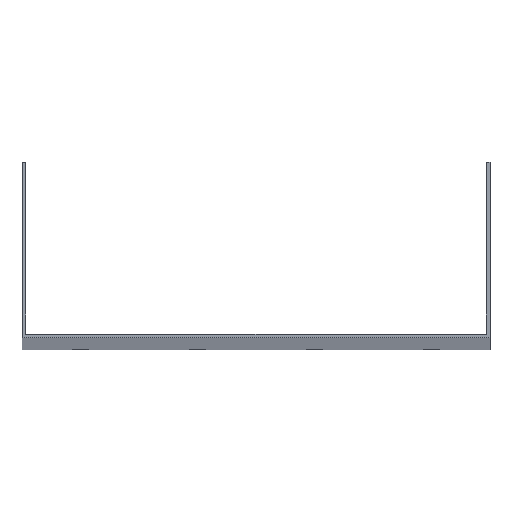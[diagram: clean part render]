
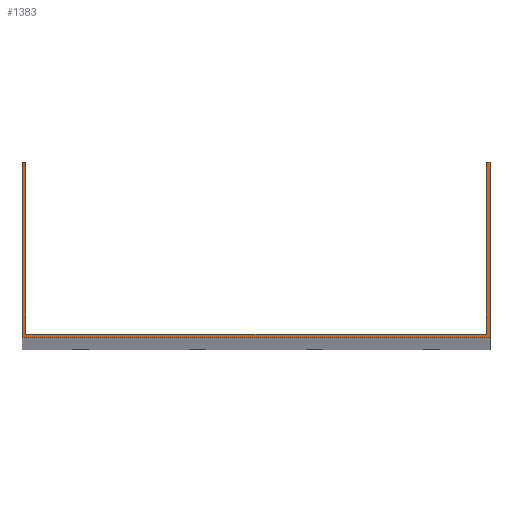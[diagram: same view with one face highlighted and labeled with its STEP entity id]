
A CAD part, top view. The second image highlights one B-rep face of the part: STEP entity #1383.
In plain terms, the highlighted planar face has unit normal (0, 0, 1).
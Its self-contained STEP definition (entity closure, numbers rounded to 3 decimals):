
#103 = CARTESIAN_POINT ( 'NONE',  ( -100., 1.5, 1500. ) ) ;
#109 = EDGE_CURVE ( 'NONE', #4525, #527, #1793, .T. ) ;
#202 = ORIENTED_EDGE ( 'NONE', *, *, #4035, .T. ) ;
#234 = CARTESIAN_POINT ( 'NONE',  ( -100., 0., 1500. ) ) ;
#264 = VECTOR ( 'NONE', #3798, 1000. ) ;
#272 = DIRECTION ( 'NONE',  ( 0., -1., 0. ) ) ;
#357 = DIRECTION ( 'NONE',  ( 1., 0., 0. ) ) ;
#431 = CARTESIAN_POINT ( 'NONE',  ( 100., 75., 1500. ) ) ;
#453 = LINE ( 'NONE', #1904, #2078 ) ;
#527 = VERTEX_POINT ( 'NONE', #4340 ) ;
#549 = CARTESIAN_POINT ( 'NONE',  ( -98.5, 75., 1500. ) ) ;
#579 = LINE ( 'NONE', #4542, #2408 ) ;
#606 = LINE ( 'NONE', #1368, #3752 ) ;
#668 = EDGE_LOOP ( 'NONE', ( #938, #2792, #202, #1612, #3430, #4329, #4169, #3169 ) ) ;
#729 = VERTEX_POINT ( 'NONE', #1942 ) ;
#737 = CARTESIAN_POINT ( 'NONE',  ( -98.5, 1.5, 1500. ) ) ;
#843 = VECTOR ( 'NONE', #3005, 1000. ) ;
#847 = AXIS2_PLACEMENT_3D ( 'NONE', #2509, #1453, #357 ) ;
#938 = ORIENTED_EDGE ( 'NONE', *, *, #1003, .F. ) ;
#943 = DIRECTION ( 'NONE',  ( 0., 1., 0. ) ) ;
#1003 = EDGE_CURVE ( 'NONE', #4525, #1330, #3853, .T. ) ;
#1173 = EDGE_CURVE ( 'NONE', #1330, #3964, #1940, .T. ) ;
#1275 = CARTESIAN_POINT ( 'NONE',  ( -98.5, 75., 1500. ) ) ;
#1299 = CARTESIAN_POINT ( 'NONE',  ( 98.5, 75., 1500. ) ) ;
#1330 = VERTEX_POINT ( 'NONE', #737 ) ;
#1368 = CARTESIAN_POINT ( 'NONE',  ( 100., 75., 1500. ) ) ;
#1383 = ADVANCED_FACE ( 'NONE', ( #2864 ), #2179, .T. ) ;
#1418 = CARTESIAN_POINT ( 'NONE',  ( -100., 75., 1500. ) ) ;
#1453 = DIRECTION ( 'NONE',  ( 0., 0., 1. ) ) ;
#1612 = ORIENTED_EDGE ( 'NONE', *, *, #2388, .T. ) ;
#1672 = VECTOR ( 'NONE', #272, 1000. ) ;
#1721 = VECTOR ( 'NONE', #943, 1000. ) ;
#1793 = LINE ( 'NONE', #1418, #3999 ) ;
#1904 = CARTESIAN_POINT ( 'NONE',  ( -100., 75., 1500. ) ) ;
#1940 = LINE ( 'NONE', #103, #843 ) ;
#1942 = CARTESIAN_POINT ( 'NONE',  ( 98.5, 75., 1500. ) ) ;
#1977 = CARTESIAN_POINT ( 'NONE',  ( 100., 0., 1500. ) ) ;
#2078 = VECTOR ( 'NONE', #4111, 1000. ) ;
#2083 = VERTEX_POINT ( 'NONE', #1977 ) ;
#2109 = VERTEX_POINT ( 'NONE', #234 ) ;
#2110 = LINE ( 'NONE', #4507, #264 ) ;
#2179 = PLANE ( 'NONE',  #847 ) ;
#2388 = EDGE_CURVE ( 'NONE', #2109, #2083, #579, .T. ) ;
#2408 = VECTOR ( 'NONE', #4449, 1000. ) ;
#2432 = LINE ( 'NONE', #1299, #1721 ) ;
#2496 = DIRECTION ( 'NONE',  ( -1., 0., 0. ) ) ;
#2509 = CARTESIAN_POINT ( 'NONE',  ( 0., 0., 1500. ) ) ;
#2792 = ORIENTED_EDGE ( 'NONE', *, *, #109, .T. ) ;
#2864 = FACE_OUTER_BOUND ( 'NONE', #668, .T. ) ;
#3005 = DIRECTION ( 'NONE',  ( 1., 0., 0. ) ) ;
#3169 = ORIENTED_EDGE ( 'NONE', *, *, #1173, .F. ) ;
#3430 = ORIENTED_EDGE ( 'NONE', *, *, #3447, .T. ) ;
#3447 = EDGE_CURVE ( 'NONE', #2083, #3864, #606, .T. ) ;
#3752 = VECTOR ( 'NONE', #3908, 1000. ) ;
#3798 = DIRECTION ( 'NONE',  ( -1., 0., 0. ) ) ;
#3853 = LINE ( 'NONE', #549, #1672 ) ;
#3864 = VERTEX_POINT ( 'NONE', #431 ) ;
#3908 = DIRECTION ( 'NONE',  ( 0., 1., 0. ) ) ;
#3964 = VERTEX_POINT ( 'NONE', #4654 ) ;
#3999 = VECTOR ( 'NONE', #2496, 1000. ) ;
#4035 = EDGE_CURVE ( 'NONE', #527, #2109, #453, .T. ) ;
#4111 = DIRECTION ( 'NONE',  ( 0., -1., 0. ) ) ;
#4169 = ORIENTED_EDGE ( 'NONE', *, *, #4573, .F. ) ;
#4239 = EDGE_CURVE ( 'NONE', #3864, #729, #2110, .T. ) ;
#4329 = ORIENTED_EDGE ( 'NONE', *, *, #4239, .T. ) ;
#4340 = CARTESIAN_POINT ( 'NONE',  ( -100., 75., 1500. ) ) ;
#4449 = DIRECTION ( 'NONE',  ( 1., 0., 0. ) ) ;
#4507 = CARTESIAN_POINT ( 'NONE',  ( -100., 75., 1500. ) ) ;
#4525 = VERTEX_POINT ( 'NONE', #1275 ) ;
#4542 = CARTESIAN_POINT ( 'NONE',  ( -100., 0., 1500. ) ) ;
#4573 = EDGE_CURVE ( 'NONE', #3964, #729, #2432, .T. ) ;
#4654 = CARTESIAN_POINT ( 'NONE',  ( 98.5, 1.5, 1500. ) ) ;
